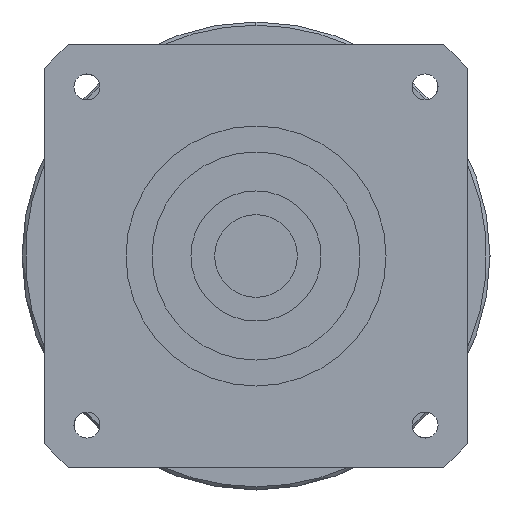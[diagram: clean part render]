
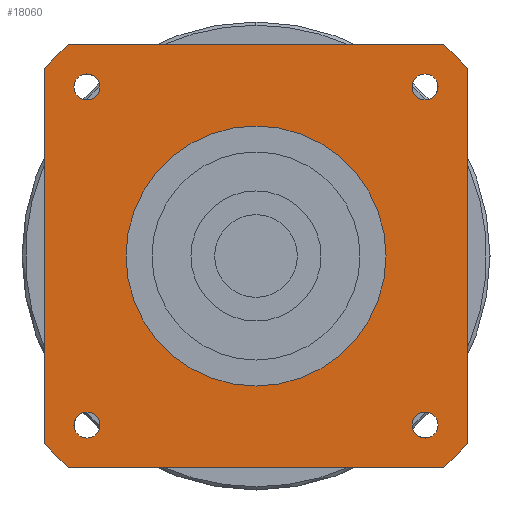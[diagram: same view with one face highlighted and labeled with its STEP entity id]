
A CAD part, left-side view. The second image highlights one B-rep face of the part: STEP entity #18060.
In plain terms, the highlighted planar face has unit normal (-1, 0, 0) as drawn and (0, 0, -1) by its records, which use the part's own axes.
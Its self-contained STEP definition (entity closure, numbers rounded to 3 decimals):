
#12210=CARTESIAN_POINT('',(-32.5,28.914,-91.));
#12220=VERTEX_POINT('',#12210);
#12400=CARTESIAN_POINT('',(-32.5,-28.914,-91.));
#12410=VERTEX_POINT('',#12400);
#12440=CARTESIAN_POINT('',(-32.5,32.5,-91.));
#12450=DIRECTION('',(0.,-1.,0.));
#12460=VECTOR('',#12450,1000.);
#12470=LINE('',#12440,#12460);
#12480=EDGE_CURVE('',#12220,#12410,#12470,.T.);
#12640=CARTESIAN_POINT('',(28.914,32.5,-91.));
#12650=VERTEX_POINT('',#12640);
#12680=CARTESIAN_POINT('',(0.,0.,
-91.));
#12690=DIRECTION('',(0.,0.,1.));
#12700=DIRECTION('',(0.,-1.,0.));
#12710=AXIS2_PLACEMENT_3D('',#12680,#12690,#12700);
#12720=CIRCLE('',#12710,43.5);
#12730=CARTESIAN_POINT('',(32.5,28.914,-91.));
#12740=VERTEX_POINT('',#12730);
#12750=EDGE_CURVE('',#12740,#12650,#12720,.T.);
#15260=CARTESIAN_POINT('',(-28.914,-32.5,-91.));
#15270=VERTEX_POINT('',#15260);
#15300=CARTESIAN_POINT('',(0.,0.,
-91.));
#15310=DIRECTION('',(0.,0.,1.));
#15320=DIRECTION('',(0.,-1.,0.));
#15330=AXIS2_PLACEMENT_3D('',#15300,#15310,#15320);
#15340=CIRCLE('',#15330,43.5);
#15350=EDGE_CURVE('',#12410,#15270,#15340,.T.);
#15840=CARTESIAN_POINT('',(28.914,-32.5,-91.));
#15850=VERTEX_POINT('',#15840);
#15930=CARTESIAN_POINT('',(32.5,-28.914,-91.));
#15940=VERTEX_POINT('',#15930);
#15970=CARTESIAN_POINT('',(0.,0.,
-91.));
#15980=DIRECTION('',(0.,0.,1.));
#15990=DIRECTION('',(0.,-1.,0.));
#16000=AXIS2_PLACEMENT_3D('',#15970,#15980,#15990);
#16010=CIRCLE('',#16000,43.5);
#16020=EDGE_CURVE('',#15850,#15940,#16010,.T.);
#16280=CARTESIAN_POINT('',(-28.914,32.5,-91.));
#16290=VERTEX_POINT('',#16280);
#16320=CARTESIAN_POINT('',(32.5,32.5,-91.));
#16330=DIRECTION('',(-1.,0.,0.));
#16340=VECTOR('',#16330,1000.);
#16350=LINE('',#16320,#16340);
#16360=EDGE_CURVE('',#12650,#16290,#16350,.T.);
#16760=CARTESIAN_POINT('',(0.,0.,
-91.));
#16770=DIRECTION('',(0.,0.,1.));
#16780=DIRECTION('',(0.,-1.,0.));
#16790=AXIS2_PLACEMENT_3D('',#16760,#16770,#16780);
#16800=CIRCLE('',#16790,43.5);
#16810=EDGE_CURVE('',#16290,#12220,#16800,.T.);
#16860=CARTESIAN_POINT('',(-32.5,32.5,-91.));
#16870=DIRECTION('',(0.,0.,1.));
#16880=DIRECTION('',(-1.,0.,0.));
#16890=AXIS2_PLACEMENT_3D('',#16860,#16870,#16880);
#16900=PLANE('',#16890);
#16910=CARTESIAN_POINT('',(26.,-26.,-91.));
#16920=DIRECTION('',(0.,0.,-1.));
#16930=DIRECTION('',(1.,0.,0.));
#16940=AXIS2_PLACEMENT_3D('',#16910,#16920,#16930);
#16950=CIRCLE('',#16940,2.);
#16960=CARTESIAN_POINT('',(28.,-26.,-91.));
#16970=VERTEX_POINT('',#16960);
#16980=CARTESIAN_POINT('',(26.,-28.,-91.));
#16990=VERTEX_POINT('',#16980);
#17000=EDGE_CURVE('',#16970,#16990,#16950,.T.);
#17010=ORIENTED_EDGE('',*,*,#17000,.F.);
#17020=CARTESIAN_POINT('',(26.,-24.,-91.));
#17030=VERTEX_POINT('',#17020);
#17040=EDGE_CURVE('',#16990,#17030,#16950,.T.);
#17050=ORIENTED_EDGE('',*,*,#17040,.F.);
#17060=EDGE_CURVE('',#17030,#16970,#16950,.T.);
#17070=ORIENTED_EDGE('',*,*,#17060,.F.);
#17080=EDGE_LOOP('',(#17070,#17050,#17010));
#17090=FACE_BOUND('',#17080,.T.);
#17100=CARTESIAN_POINT('',(26.,26.,-91.));
#17110=DIRECTION('',(0.,0.,-1.));
#17120=DIRECTION('',(0.,1.,0.));
#17130=AXIS2_PLACEMENT_3D('',#17100,#17110,#17120);
#17140=CIRCLE('',#17130,2.);
#17150=CARTESIAN_POINT('',(26.,28.,-91.));
#17160=VERTEX_POINT('',#17150);
#17170=CARTESIAN_POINT('',(28.,26.,-91.));
#17180=VERTEX_POINT('',#17170);
#17190=EDGE_CURVE('',#17160,#17180,#17140,.T.);
#17200=ORIENTED_EDGE('',*,*,#17190,.F.);
#17210=CARTESIAN_POINT('',(24.,26.,-91.));
#17220=VERTEX_POINT('',#17210);
#17230=EDGE_CURVE('',#17180,#17220,#17140,.T.);
#17240=ORIENTED_EDGE('',*,*,#17230,.F.);
#17250=EDGE_CURVE('',#17220,#17160,#17140,.T.);
#17260=ORIENTED_EDGE('',*,*,#17250,.F.);
#17270=EDGE_LOOP('',(#17260,#17240,#17200));
#17280=FACE_BOUND('',#17270,.T.);
#17290=CARTESIAN_POINT('',(-26.,26.,-91.));
#17300=DIRECTION('',(0.,0.,-1.));
#17310=DIRECTION('',(-1.,0.,0.));
#17320=AXIS2_PLACEMENT_3D('',#17290,#17300,#17310);
#17330=CIRCLE('',#17320,2.);
#17340=CARTESIAN_POINT('',(-28.,26.,-91.));
#17350=VERTEX_POINT('',#17340);
#17360=CARTESIAN_POINT('',(-26.,28.,-91.));
#17370=VERTEX_POINT('',#17360);
#17380=EDGE_CURVE('',#17350,#17370,#17330,.T.);
#17390=ORIENTED_EDGE('',*,*,#17380,.F.);
#17400=CARTESIAN_POINT('',(-26.,24.,-91.));
#17410=VERTEX_POINT('',#17400);
#17420=EDGE_CURVE('',#17370,#17410,#17330,.T.);
#17430=ORIENTED_EDGE('',*,*,#17420,.F.);
#17440=EDGE_CURVE('',#17410,#17350,#17330,.T.);
#17450=ORIENTED_EDGE('',*,*,#17440,.F.);
#17460=EDGE_LOOP('',(#17450,#17430,#17390));
#17470=FACE_BOUND('',#17460,.T.);
#17480=CARTESIAN_POINT('',(-26.,-26.,-91.));
#17490=DIRECTION('',(0.,0.,-1.));
#17500=DIRECTION('',(0.,-1.,0.));
#17510=AXIS2_PLACEMENT_3D('',#17480,#17490,#17500);
#17520=CIRCLE('',#17510,2.);
#17530=CARTESIAN_POINT('',(-26.,-28.,-91.));
#17540=VERTEX_POINT('',#17530);
#17550=CARTESIAN_POINT('',(-28.,-26.,-91.));
#17560=VERTEX_POINT('',#17550);
#17570=EDGE_CURVE('',#17540,#17560,#17520,.T.);
#17580=ORIENTED_EDGE('',*,*,#17570,.F.);
#17590=CARTESIAN_POINT('',(-24.,-26.,-91.));
#17600=VERTEX_POINT('',#17590);
#17610=EDGE_CURVE('',#17560,#17600,#17520,.T.);
#17620=ORIENTED_EDGE('',*,*,#17610,.F.);
#17630=EDGE_CURVE('',#17600,#17540,#17520,.T.);
#17640=ORIENTED_EDGE('',*,*,#17630,.F.);
#17650=EDGE_LOOP('',(#17640,#17620,#17580));
#17660=FACE_BOUND('',#17650,.T.);
#17670=ORIENTED_EDGE('',*,*,#15350,.F.);
#17680=CARTESIAN_POINT('',(-32.5,-32.5,-91.));
#17690=DIRECTION('',(1.,0.,0.));
#17700=VECTOR('',#17690,1000.);
#17710=LINE('',#17680,#17700);
#17720=EDGE_CURVE('',#15270,#15850,#17710,.T.);
#17730=ORIENTED_EDGE('',*,*,#17720,.F.);
#17740=ORIENTED_EDGE('',*,*,#16020,.F.);
#17750=CARTESIAN_POINT('',(32.5,-32.5,-91.));
#17760=DIRECTION('',(0.,1.,0.));
#17770=VECTOR('',#17760,1000.);
#17780=LINE('',#17750,#17770);
#17790=EDGE_CURVE('',#15940,#12740,#17780,.T.);
#17800=ORIENTED_EDGE('',*,*,#17790,.F.);
#17810=ORIENTED_EDGE('',*,*,#12750,.F.);
#17820=ORIENTED_EDGE('',*,*,#16360,.F.);
#17830=ORIENTED_EDGE('',*,*,#16810,.F.);
#17840=ORIENTED_EDGE('',*,*,#12480,.F.);
#17850=EDGE_LOOP('',(#17840,#17830,#17820,#17810,#17800,#17740,#17730,
#17670));
#17860=FACE_OUTER_BOUND('',#17850,.T.);
#17870=CARTESIAN_POINT('',(0.,0.,
-91.));
#17880=DIRECTION('',(0.,0.,1.));
#17890=DIRECTION('',(0.,-1.,0.));
#17900=AXIS2_PLACEMENT_3D('',#17870,#17880,#17890);
#17910=CIRCLE('',#17900,20.);
#17920=CARTESIAN_POINT('',(20.,0.,-91.));
#17930=VERTEX_POINT('',#17920);
#17940=CARTESIAN_POINT('',(-20.,0.,-91.));
#17950=VERTEX_POINT('',#17940);
#17960=EDGE_CURVE('',#17930,#17950,#17910,.T.);
#17970=ORIENTED_EDGE('',*,*,#17960,.T.);
#17980=CARTESIAN_POINT('',(0.,-20.,-91.));
#17990=VERTEX_POINT('',#17980);
#18000=EDGE_CURVE('',#17990,#17930,#17910,.T.);
#18010=ORIENTED_EDGE('',*,*,#18000,.T.);
#18020=EDGE_CURVE('',#17950,#17990,#17910,.T.);
#18030=ORIENTED_EDGE('',*,*,#18020,.T.);
#18040=EDGE_LOOP('',(#18030,#18010,#17970));
#18050=FACE_BOUND('',#18040,.T.);
#18060=ADVANCED_FACE('',(#17090,#17280,#17470,#17660,#17860,#18050),
#16900,.F.);
